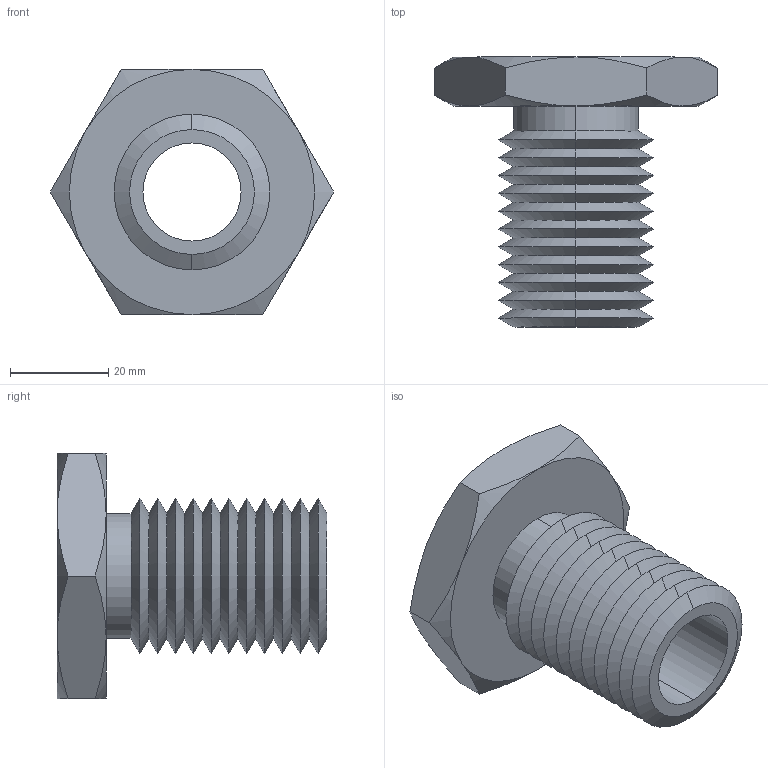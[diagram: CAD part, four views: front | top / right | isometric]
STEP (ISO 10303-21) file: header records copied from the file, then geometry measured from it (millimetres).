
FILE_DESCRIPTION (( 'STEP AP203' ), '1' );
FILE_NAME ('63302.W5125_M20x2,5.step', '2013-12-08T11:58:23', ( 'User' ), ( '' ), 'SwSTEP 2.0', 'SolidWorks 2009', '' );
FILE_SCHEMA (( 'CONFIG_CONTROL_DESIGN' ));
Length unit declared in the file: millimetre
Products named in the file (1): 63302.W5125_M20x2,5
Bounding box: 57.73 x 55 x 50 mm (x, y, z)
Volume: 32236 mm3; surface area: 16185.3 mm2
Topology: 1 solids, 1 shells, 71 faces, 146 edges, 78 vertices
Faces by surface type: cone 58, plane 9, cylinder 4
Entity records: 2039 total; most frequent: CARTESIAN_POINT 480, DIRECTION 332, ORIENTED_EDGE 292, EDGE_CURVE 146, AXIS2_PLACEMENT_3D 138, VERTEX_POINT 78, EDGE_LOOP 74, ADVANCED_FACE 71
